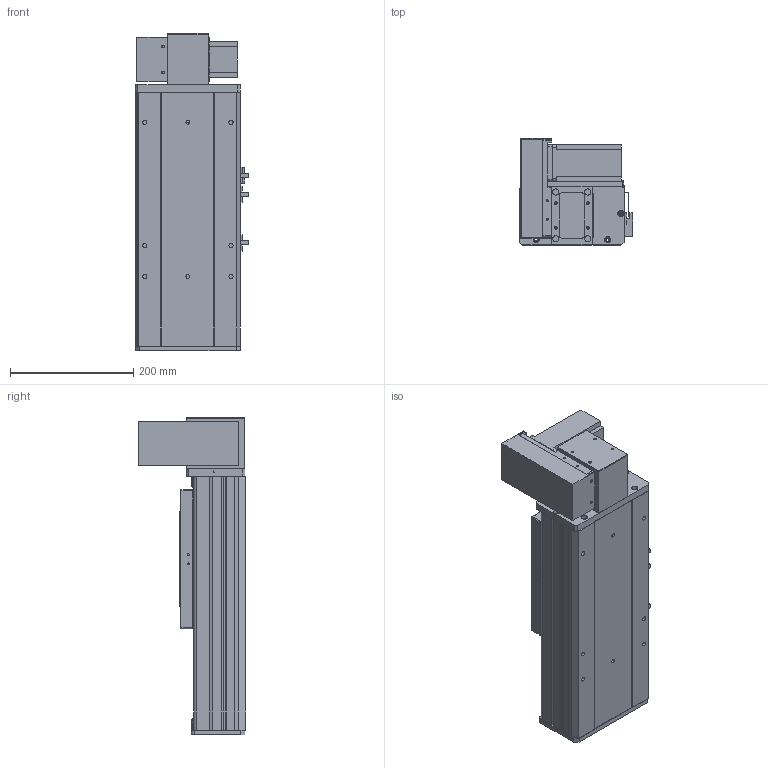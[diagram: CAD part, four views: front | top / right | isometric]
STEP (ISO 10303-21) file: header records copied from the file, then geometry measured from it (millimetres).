
FILE_DESCRIPTION (( 'STEP AP203' ), '1' );
FILE_NAME ('Y170CB-D105-S100-UL-P400W.STEP', '2020-02-20T02:03:19', ( '微软用户' ), ( '微软中国' ), 'SwSTEP 2.0', 'SolidWorks 2017', '' );
FILE_SCHEMA (( 'CONFIG_CONTROL_DESIGN' ));
Length unit declared in the file: millimetre
Products named in the file (18): --70CB --喘謫眊楊擘啣-; 70B喘謫眊----; 70CB-耜裔啣-; Y1埴倛裔; 70C--詩湍揤踡え-; 17B-耜蚾蟀諉啣----; 70CB--耜裔; 00B-俋欶BM--163; 70C-雄赽釱-奻-; B-源倛裔啣; 0C--雄赽釱俋欶-170; 0B-萇儂楊擘啣; Y170CB-D105-S100-UL-P400W; 70CB-詩湍--; san松下电机400不带刹车----; Y100-135俋离換覜ん--; 70CB-掛极-; Y170CB-陔俋离換覜結え---
Assembly tree (21 placements, depth 2):
  Y170CB-D105-S100-UL-P400W
    B-源倛裔啣
    0B-萇儂楊擘啣
    san松下电机400不带刹车----
    70CB-掛极-
    --70CB --喘謫眊楊擘啣-
    70CB-耜裔啣-  x2
    70C--詩湍揤踡え-  x2
    70CB--耜裔
    70C-雄赽釱-奻-
    0C--雄赽釱俋欶-170
    70CB-詩湍--
    Y100-135俋离換覜ん--  x3
    Y170CB-陔俋离換覜結え---
    70B喘謫眊----
    Y1埴倛裔
    17B-耜蚾蟀諉啣----
    00B-俋欶BM--163
Bounding box: 183.5 x 174 x 516 mm (x, y, z)
Volume: 2995309.7 mm3; surface area: 1053745.4 mm2
Topology: 21 solids, 21 shells, 975 faces, 2597 edges, 1722 vertices
Faces by surface type: cylinder 489, plane 462, cone 24
Entity records: 30868 total; most frequent: CARTESIAN_POINT 5616, DIRECTION 5018, ORIENTED_EDGE 4676, EDGE_CURVE 2338, AXIS2_PLACEMENT_3D 1828, VERTEX_POINT 1552, VECTOR 1362, LINE 1362
